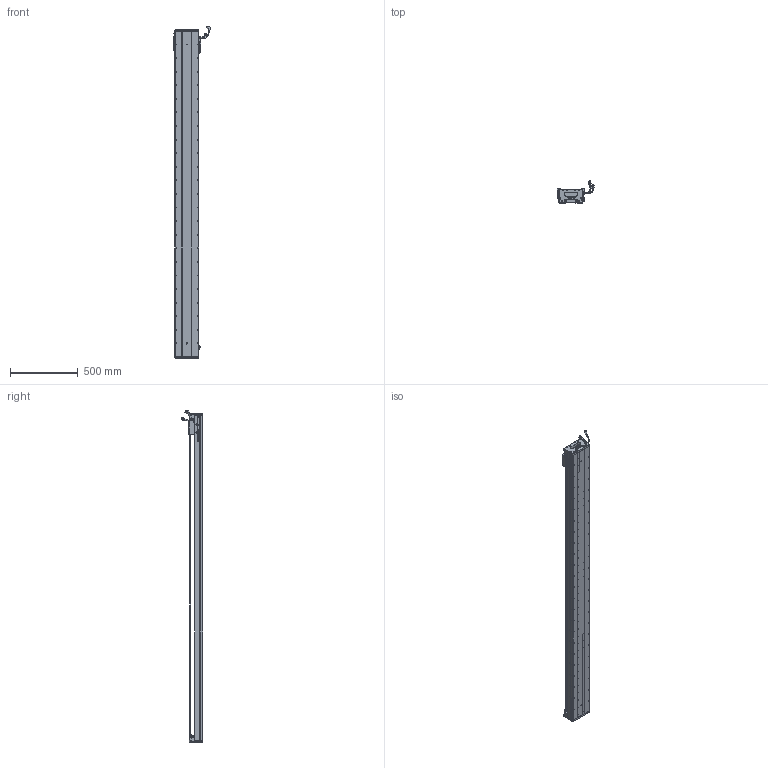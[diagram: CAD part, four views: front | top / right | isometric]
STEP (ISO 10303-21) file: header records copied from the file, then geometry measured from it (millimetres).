
FILE_DESCRIPTION (( 'STEP AP203' ), '1' );
FILE_NAME ('Z1-RY170D-1-L500-B-K.SLDASM_2200.step', '2021-05-17T08:54:58', ( '盈信电脑' ), ( '东莞市道滘镇水果街19号' ), 'SwSTEP 2.0', 'SolidWorks 2016', '' );
FILE_SCHEMA (( 'CONFIG_CONTROL_DESIGN' ));
Length unit declared in the file: millimetre
Products named in the file (36): SCREW-M1.7; 榋妏寠巭燃_暯_M2_2; 覜茼ん672; SCREW-M1.7-1; SHIELDPLATE; 080黍杅芛假蚾釱21遴; LABEL; 140蚥薯蝶輸; HARNESS-Part-2; SCALE; SCALE-Part-2; RY170直线电机感应器672光电感应片; SCREW-M1.6-2; SCREW-M1.6-3; HARNESS-Part-1; SEAL-Part-1; 170-Z-臏賑輸盄裔(21遴); PBU_SHEET; SCALE-Part-1; LABEL-Part-1; Z1-RY170-L500耀郪菁釱_2200; 140雄赽晤鎢ん堤盄; PSLH080_PSLF2; Z-RY170詩湍奻揤裔; Z-RY170詩湍狟揤裔; COVER; Z-170詩湍傷裔啣; SCREW-M1.6; HARNESS; Z1-RY170-L500詩湍145mm遵_2200; SCREW-M1.6-1; COVER-Part-1; Z1-RY170臏賑輸(21遴); Z1-RY170D-1-L500-B-K.SLDASM_2200; SEAL; HOLDER0
Assembly tree (41 placements, depth 4):
  Z1-RY170D-1-L500-B-K.SLDASM_2200
    Z1-RY170-L500耀郪菁釱_2200
    RY170直线电机感应器672光电感应片
    Z1-RY170臏賑輸(21遴)
    覜茼ん672  x3
    PSLH080_PSLF2
      SCALE
        SCALE-Part-1
        SCALE-Part-2
      HARNESS
        HARNESS-Part-1
        HARNESS-Part-2
      LABEL
        LABEL-Part-1
      COVER
        COVER-Part-1
      SEAL
        SEAL-Part-1
      榋妏寠巭燃_暯_M2_2
      SHIELDPLATE
      SCREW-M1.7
      SCREW-M1.7-1
      PBU_SHEET
      SCREW-M1.6
      SCREW-M1.6-1
      SCREW-M1.6-2
      SCREW-M1.6-3
      HOLDER0
    080黍杅芛假蚾釱21遴
    Z1-RY170-L500詩湍145mm遵_2200
    Z-170詩湍傷裔啣  x2
    Z-RY170詩湍奻揤裔  x2
    Z-RY170詩湍狟揤裔  x2
    140蚥薯蝶輸  x2
    170-Z-臏賑輸盄裔(21遴)
    140雄赽晤鎢ん堤盄
Bounding box: 275.34 x 158.11 x 2443.72 mm (x, y, z)
Volume: 11762099.9 mm3; surface area: 2938787.2 mm2
Topology: 36 solids, 36 shells, 3812 faces, 10535 edges, 6583 vertices
Faces by surface type: cylinder 1894, plane 1268, cone 528, torus 69, bspline 53
Entity records: 118935 total; most frequent: CARTESIAN_POINT 33092, ORIENTED_EDGE 17586, DIRECTION 16441, EDGE_CURVE 8793, AXIS2_PLACEMENT_3D 6038, VERTEX_POINT 5701, VECTOR 4365, LINE 4365
